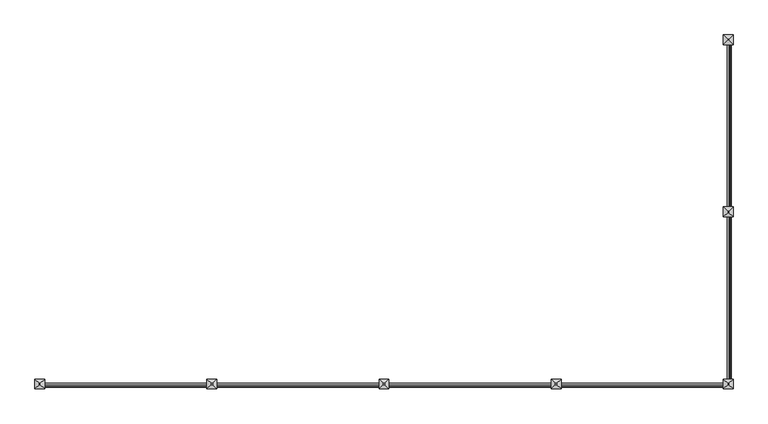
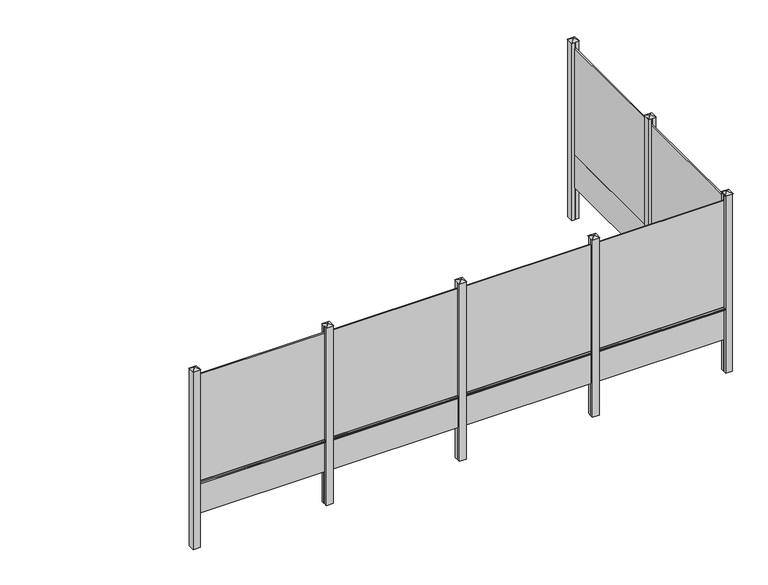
"""IFC4 building model written with IfcOpenShell, lengths in millimetres: railing geometry, Mehat - Railing - Plaque de Soubassement - Pour clôture bois - 192x50x3.5/2 cm."""

from ifc_helpers import new_model, si_unit, point, frame, frame_2d, origin, origin_with_axes, place, context, project, spatial, polyline, circle_curve, trimmed, segment, composite_curve, outline, extrude, faceted_brep, source, transform, mapped, element, save


def railing_174873eb(model_context):
    return source(origin(), model_context, "Body", "SolidModel", [
        extrude(outline(polyline([(-27103.7483484, -1437.4943936), (-27120.7483484, -1437.4943936), (-27120.7483484, 482.5056064), (-27103.7483484, 482.5056064), (-27103.7483484, -1437.4943936)])), frame((0.0, 0.0, 500.0), z_axis=(0.0, 0.0, 1.0), x_axis=(1.0, 0.0, 0.0)), (0.0, 0.0, 1.0), 1650.0),
        extrude(outline(polyline([(-27102.2483484, -1437.4943936), (-27122.2483484, -1437.4943936), (-27122.2483484, 482.5056064), (-27102.2483484, 482.5056064), (-27102.2483484, -1437.4943936)])), origin_with_axes(), (0.0, 0.0, 1.0), 500.0),
        extrude(outline(composite_curve([segment(polyline([(460.0, -27102.2483484), (467.1937129, -27080.6672095)]), True, "CONTINUOUS"), segment(trimmed(circle_curve(frame_2d((471.9371294, -27082.2483484)), 5.0), [point((467.1937129, -27080.6672095))], [point((471.9371294, -27077.2483484))], False, "CARTESIAN"), True, "CONTINUOUS"), segment(polyline([(471.9371294, -27077.2483484), (488.0628706, -27077.2483484)]), True, "CONTINUOUS"), segment(trimmed(circle_curve(frame_2d((488.0628706, -27082.2483484)), 5.0), [point((488.0628706, -27077.2483484))], [point((492.8062871, -27080.6672095))], False, "CARTESIAN"), True, "CONTINUOUS"), segment(polyline([(492.8062871, -27080.6672095), (500.0, -27102.2483484), (460.0, -27102.2483484)]), True, "CONTINUOUS")], self_intersect=False)), frame((0.0, -1402.4943936, 0.0), z_axis=(0.0, 1.0, 0.0), x_axis=(0.0, 0.0, 1.0)), (0.0, 0.0, 1.0), 1850.0),
        extrude(outline(polyline([(-27062.2483484, -1502.4943936), (-27102.2483484, -1502.4943936), (-27102.2483484, -1467.4943936), (-27122.2483484, -1467.4943936), (-27122.2483484, -1502.4943936), (-27162.2483484, -1502.4943936), (-27162.2483484, -1402.4943936), (-27122.2483484, -1402.4943936), (-27122.2483484, -1437.4943936), (-27102.2483484, -1437.4943936), (-27102.2483484, -1402.4943936), (-27062.2483484, -1402.4943936), (-27062.2483484, -1502.4943936)])), frame((0.0, 0.0, -500.0), z_axis=(0.0, 0.0, 1.0), x_axis=(1.0, 0.0, 0.0)), (0.0, 0.0, 1.0), 2750.0),
        faceted_brep([(-27118.6528945, -1446.1443936, 2275.4), (-27118.6528945, -1458.8443936, 2275.4), (-27105.9528945, -1458.8443936, 2275.4), (-27105.9528945, -1446.1443936, 2275.4), (-27168.5983484, -1396.1443936, 2250.0), (-27055.8983484, -1396.1443936, 2250.0), (-27055.8983484, -1508.8443936, 2250.0), (-27168.5983484, -1508.8443936, 2250.0)], [[[0, 1, 2, 3]], [[4, 5, 6, 7]], [[4, 0, 3, 5]], [[5, 3, 2, 6]], [[6, 2, 1, 7]], [[7, 1, 0, 4]]]),
        extrude(outline(polyline([(-27103.7483484, -3387.4943936), (-27120.7483484, -3387.4943936), (-27120.7483484, -1467.4943936), (-27103.7483484, -1467.4943936), (-27103.7483484, -3387.4943936)])), frame((0.0, 0.0, 500.0), z_axis=(0.0, 0.0, 1.0), x_axis=(1.0, 0.0, 0.0)), (0.0, 0.0, 1.0), 1650.0),
        extrude(outline(polyline([(-27102.2483484, -3387.4943936), (-27122.2483484, -3387.4943936), (-27122.2483484, -1467.4943936), (-27102.2483484, -1467.4943936), (-27102.2483484, -3387.4943936)])), origin_with_axes(), (0.0, 0.0, 1.0), 500.0),
        extrude(outline(composite_curve([segment(polyline([(460.0, -27102.2483484), (467.1937129, -27080.6672095)]), True, "CONTINUOUS"), segment(trimmed(circle_curve(frame_2d((471.9371294, -27082.2483484)), 5.0), [point((467.1937129, -27080.6672095))], [point((471.9371294, -27077.2483484))], False, "CARTESIAN"), True, "CONTINUOUS"), segment(polyline([(471.9371294, -27077.2483484), (488.0628706, -27077.2483484)]), True, "CONTINUOUS"), segment(trimmed(circle_curve(frame_2d((488.0628706, -27082.2483484)), 5.0), [point((488.0628706, -27077.2483484))], [point((492.8062871, -27080.6672095))], False, "CARTESIAN"), True, "CONTINUOUS"), segment(polyline([(492.8062871, -27080.6672095), (500.0, -27102.2483484), (460.0, -27102.2483484)]), True, "CONTINUOUS")], self_intersect=False)), frame((0.0, -3352.4943936, 0.0), z_axis=(0.0, 1.0, 0.0), x_axis=(0.0, 0.0, 1.0)), (0.0, 0.0, 1.0), 1850.0),
        extrude(outline(polyline([(-29047.2483484, -3410.9943936), (-29047.2483484, -3393.9943936), (-27127.2483484, -3393.9943936), (-27127.2483484, -3410.9943936), (-29047.2483484, -3410.9943936)])), frame((0.0, 0.0, 500.0), z_axis=(0.0, 0.0, 1.0), x_axis=(1.0, 0.0, 0.0)), (0.0, 0.0, 1.0), 1650.0),
        extrude(outline(polyline([(-29047.2483484, -3412.4943936), (-29047.2483484, -3392.4943936), (-27127.2483484, -3392.4943936), (-27127.2483484, -3412.4943936), (-29047.2483484, -3412.4943936)])), origin_with_axes(), (0.0, 0.0, 1.0), 500.0),
        extrude(outline(composite_curve([segment(polyline([(-3412.4943936, 460.0), (-3434.0755325, 467.1937129)]), True, "CONTINUOUS"), segment(trimmed(circle_curve(frame_2d((-3432.4943936, 471.9371294)), 5.0), [point((-3434.0755325, 467.1937129))], [point((-3437.4943936, 471.9371294))], False, "CARTESIAN"), True, "CONTINUOUS"), segment(polyline([(-3437.4943936, 471.9371294), (-3437.4943936, 488.0628706)]), True, "CONTINUOUS"), segment(trimmed(circle_curve(frame_2d((-3432.4943936, 488.0628706)), 5.0), [point((-3437.4943936, 488.0628706))], [point((-3434.0755325, 492.8062871))], False, "CARTESIAN"), True, "CONTINUOUS"), segment(polyline([(-3434.0755325, 492.8062871), (-3412.4943936, 500.0), (-3412.4943936, 460.0)]), True, "CONTINUOUS")], self_intersect=False)), frame((-29012.2483484, 0.0, 0.0), z_axis=(1.0, 0.0, 0.0), x_axis=(0.0, 1.0, 0.0)), (0.0, 0.0, 1.0), 1850.0),
        extrude(outline(polyline([(-29112.2483484, -3452.4943936), (-29112.2483484, -3412.4943936), (-29077.2483484, -3412.4943936), (-29077.2483484, -3392.4943936), (-29112.2483484, -3392.4943936), (-29112.2483484, -3352.4943936), (-29012.2483484, -3352.4943936), (-29012.2483484, -3392.4943936), (-29047.2483484, -3392.4943936), (-29047.2483484, -3412.4943936), (-29012.2483484, -3412.4943936), (-29012.2483484, -3452.4943936), (-29112.2483484, -3452.4943936)])), frame((0.0, 0.0, -500.0), z_axis=(0.0, 0.0, 1.0), x_axis=(1.0, 0.0, 0.0)), (0.0, 0.0, 1.0), 2750.0),
        faceted_brep([(-29055.8983484, -3396.0898475, 2275.4), (-29068.5983484, -3396.0898475, 2275.4), (-29068.5983484, -3408.7898475, 2275.4), (-29055.8983484, -3408.7898475, 2275.4), (-29005.8983484, -3346.1443936, 2250.0), (-29005.8983484, -3458.8443936, 2250.0), (-29118.5983484, -3458.8443936, 2250.0), (-29118.5983484, -3346.1443936, 2250.0)], [[[0, 1, 2, 3]], [[4, 5, 6, 7]], [[4, 0, 3, 5]], [[5, 3, 2, 6]], [[6, 2, 1, 7]], [[7, 1, 0, 4]]]),
        extrude(outline(polyline([(-30997.2483484, -3410.9943936), (-30997.2483484, -3393.9943936), (-29077.2483484, -3393.9943936), (-29077.2483484, -3410.9943936), (-30997.2483484, -3410.9943936)])), frame((0.0, 0.0, 500.0), z_axis=(0.0, 0.0, 1.0), x_axis=(1.0, 0.0, 0.0)), (0.0, 0.0, 1.0), 1650.0),
        extrude(outline(polyline([(-30997.2483484, -3412.4943936), (-30997.2483484, -3392.4943936), (-29077.2483484, -3392.4943936), (-29077.2483484, -3412.4943936), (-30997.2483484, -3412.4943936)])), origin_with_axes(), (0.0, 0.0, 1.0), 500.0),
        extrude(outline(composite_curve([segment(polyline([(-3412.4943936, 460.0), (-3434.0755325, 467.1937129)]), True, "CONTINUOUS"), segment(trimmed(circle_curve(frame_2d((-3432.4943936, 471.9371294)), 5.0), [point((-3434.0755325, 467.1937129))], [point((-3437.4943936, 471.9371294))], False, "CARTESIAN"), True, "CONTINUOUS"), segment(polyline([(-3437.4943936, 471.9371294), (-3437.4943936, 488.0628706)]), True, "CONTINUOUS"), segment(trimmed(circle_curve(frame_2d((-3432.4943936, 488.0628706)), 5.0), [point((-3437.4943936, 488.0628706))], [point((-3434.0755325, 492.8062871))], False, "CARTESIAN"), True, "CONTINUOUS"), segment(polyline([(-3434.0755325, 492.8062871), (-3412.4943936, 500.0), (-3412.4943936, 460.0)]), True, "CONTINUOUS")], self_intersect=False)), frame((-30962.2483484, 0.0, 0.0), z_axis=(1.0, 0.0, 0.0), x_axis=(0.0, 1.0, 0.0)), (0.0, 0.0, 1.0), 1850.0),
        extrude(outline(polyline([(-31062.2483484, -3452.4943936), (-31062.2483484, -3412.4943936), (-31027.2483484, -3412.4943936), (-31027.2483484, -3392.4943936), (-31062.2483484, -3392.4943936), (-31062.2483484, -3352.4943936), (-30962.2483484, -3352.4943936), (-30962.2483484, -3392.4943936), (-30997.2483484, -3392.4943936), (-30997.2483484, -3412.4943936), (-30962.2483484, -3412.4943936), (-30962.2483484, -3452.4943936), (-31062.2483484, -3452.4943936)])), frame((0.0, 0.0, -500.0), z_axis=(0.0, 0.0, 1.0), x_axis=(1.0, 0.0, 0.0)), (0.0, 0.0, 1.0), 2750.0),
        faceted_brep([(-31005.8983484, -3396.0898475, 2275.4), (-31018.5983484, -3396.0898475, 2275.4), (-31018.5983484, -3408.7898475, 2275.4), (-31005.8983484, -3408.7898475, 2275.4), (-30955.8983484, -3346.1443936, 2250.0), (-30955.8983484, -3458.8443936, 2250.0), (-31068.5983484, -3458.8443936, 2250.0), (-31068.5983484, -3346.1443936, 2250.0)], [[[0, 1, 2, 3]], [[4, 5, 6, 7]], [[4, 0, 3, 5]], [[5, 3, 2, 6]], [[6, 2, 1, 7]], [[7, 1, 0, 4]]]),
        extrude(outline(polyline([(-32947.2483484, -3410.9943936), (-32947.2483484, -3393.9943936), (-31027.2483484, -3393.9943936), (-31027.2483484, -3410.9943936), (-32947.2483484, -3410.9943936)])), frame((0.0, 0.0, 500.0), z_axis=(0.0, 0.0, 1.0), x_axis=(1.0, 0.0, 0.0)), (0.0, 0.0, 1.0), 1650.0),
        extrude(outline(polyline([(-32947.2483484, -3412.4943936), (-32947.2483484, -3392.4943936), (-31027.2483484, -3392.4943936), (-31027.2483484, -3412.4943936), (-32947.2483484, -3412.4943936)])), origin_with_axes(), (0.0, 0.0, 1.0), 500.0),
        extrude(outline(composite_curve([segment(polyline([(-3412.4943936, 460.0), (-3434.0755325, 467.1937129)]), True, "CONTINUOUS"), segment(trimmed(circle_curve(frame_2d((-3432.4943936, 471.9371294)), 5.0), [point((-3434.0755325, 467.1937129))], [point((-3437.4943936, 471.9371294))], False, "CARTESIAN"), True, "CONTINUOUS"), segment(polyline([(-3437.4943936, 471.9371294), (-3437.4943936, 488.0628706)]), True, "CONTINUOUS"), segment(trimmed(circle_curve(frame_2d((-3432.4943936, 488.0628706)), 5.0), [point((-3437.4943936, 488.0628706))], [point((-3434.0755325, 492.8062871))], False, "CARTESIAN"), True, "CONTINUOUS"), segment(polyline([(-3434.0755325, 492.8062871), (-3412.4943936, 500.0), (-3412.4943936, 460.0)]), True, "CONTINUOUS")], self_intersect=False)), frame((-32912.2483484, 0.0, 0.0), z_axis=(1.0, 0.0, 0.0), x_axis=(0.0, 1.0, 0.0)), (0.0, 0.0, 1.0), 1850.0),
        extrude(outline(polyline([(-33012.2483484, -3452.4943936), (-33012.2483484, -3412.4943936), (-32977.2483484, -3412.4943936), (-32977.2483484, -3392.4943936), (-33012.2483484, -3392.4943936), (-33012.2483484, -3352.4943936), (-32912.2483484, -3352.4943936), (-32912.2483484, -3392.4943936), (-32947.2483484, -3392.4943936), (-32947.2483484, -3412.4943936), (-32912.2483484, -3412.4943936), (-32912.2483484, -3452.4943936), (-33012.2483484, -3452.4943936)])), frame((0.0, 0.0, -500.0), z_axis=(0.0, 0.0, 1.0), x_axis=(1.0, 0.0, 0.0)), (0.0, 0.0, 1.0), 2750.0),
        faceted_brep([(-32955.8983484, -3396.0898475, 2275.4), (-32968.5983484, -3396.0898475, 2275.4), (-32968.5983484, -3408.7898475, 2275.4), (-32955.8983484, -3408.7898475, 2275.4), (-32905.8983484, -3346.1443936, 2250.0), (-32905.8983484, -3458.8443936, 2250.0), (-33018.5983484, -3458.8443936, 2250.0), (-33018.5983484, -3346.1443936, 2250.0)], [[[0, 1, 2, 3]], [[4, 5, 6, 7]], [[4, 0, 3, 5]], [[5, 3, 2, 6]], [[6, 2, 1, 7]], [[7, 1, 0, 4]]]),
        extrude(outline(polyline([(-34897.2483484, -3410.9943936), (-34897.2483484, -3393.9943936), (-32977.2483484, -3393.9943936), (-32977.2483484, -3410.9943936), (-34897.2483484, -3410.9943936)])), frame((0.0, 0.0, 500.0), z_axis=(0.0, 0.0, 1.0), x_axis=(1.0, 0.0, 0.0)), (0.0, 0.0, 1.0), 1650.0),
        extrude(outline(polyline([(-34897.2483484, -3412.4943936), (-34897.2483484, -3392.4943936), (-32977.2483484, -3392.4943936), (-32977.2483484, -3412.4943936), (-34897.2483484, -3412.4943936)])), origin_with_axes(), (0.0, 0.0, 1.0), 500.0),
        extrude(outline(composite_curve([segment(polyline([(-3412.4943936, 460.0), (-3434.0755325, 467.1937129)]), True, "CONTINUOUS"), segment(trimmed(circle_curve(frame_2d((-3432.4943936, 471.9371294)), 5.0), [point((-3434.0755325, 467.1937129))], [point((-3437.4943936, 471.9371294))], False, "CARTESIAN"), True, "CONTINUOUS"), segment(polyline([(-3437.4943936, 471.9371294), (-3437.4943936, 488.0628706)]), True, "CONTINUOUS"), segment(trimmed(circle_curve(frame_2d((-3432.4943936, 488.0628706)), 5.0), [point((-3437.4943936, 488.0628706))], [point((-3434.0755325, 492.8062871))], False, "CARTESIAN"), True, "CONTINUOUS"), segment(polyline([(-3434.0755325, 492.8062871), (-3412.4943936, 500.0), (-3412.4943936, 460.0)]), True, "CONTINUOUS")], self_intersect=False)), frame((-34862.2483484, 0.0, 0.0), z_axis=(1.0, 0.0, 0.0), x_axis=(0.0, 1.0, 0.0)), (0.0, 0.0, 1.0), 1850.0),
        extrude(outline(polyline([(-27162.2483484, -3452.4943936), (-27162.2483484, -3412.4943936), (-27127.2483484, -3412.4943936), (-27127.2483484, -3392.4943936), (-27162.2483484, -3392.4943936), (-27162.2483484, -3352.4943936), (-27122.2483484, -3352.4943936), (-27122.2483484, -3387.4943936), (-27102.2483484, -3387.4943936), (-27102.2483484, -3352.4943936), (-27062.2483484, -3352.4943936), (-27062.2483484, -3452.4943936), (-27162.2483484, -3452.4943936)])), frame((0.0, 0.0, -500.0), z_axis=(0.0, 0.0, 1.0), x_axis=(1.0, 0.0, 0.0)), (0.0, 0.0, 1.0), 2750.0),
        faceted_brep([(-27105.8983484, -3396.0898475, 2275.4), (-27118.5983484, -3396.0898475, 2275.4), (-27118.5983484, -3408.7898475, 2275.4), (-27105.8983484, -3408.7898475, 2275.4), (-27055.8983484, -3346.1443936, 2250.0), (-27055.8983484, -3458.8443936, 2250.0), (-27168.5983484, -3458.8443936, 2250.0), (-27168.5983484, -3346.1443936, 2250.0)], [[[0, 1, 2, 3]], [[4, 5, 6, 7]], [[4, 0, 3, 5]], [[5, 3, 2, 6]], [[6, 2, 1, 7]], [[7, 1, 0, 4]]]),
        extrude(outline(polyline([(-27062.2483484, 447.5056064), (-27102.2483484, 447.5056064), (-27102.2483484, 482.5056064), (-27122.2483484, 482.5056064), (-27122.2483484, 447.5056064), (-27162.2483484, 447.5056064), (-27162.2483484, 547.5056064), (-27062.2483484, 547.5056064), (-27062.2483484, 447.5056064)])), frame((0.0, 0.0, -500.0), z_axis=(0.0, 0.0, 1.0), x_axis=(1.0, 0.0, 0.0)), (0.0, 0.0, 1.0), 2750.0),
        faceted_brep([(-27118.6528945, 503.8556064, 2275.4), (-27118.6528945, 491.1556064, 2275.4), (-27105.9528945, 491.1556064, 2275.4), (-27105.9528945, 503.8556064, 2275.4), (-27168.5983484, 553.8556064, 2250.0), (-27055.8983484, 553.8556064, 2250.0), (-27055.8983484, 441.1556064, 2250.0), (-27168.5983484, 441.1556064, 2250.0)], [[[0, 1, 2, 3]], [[4, 5, 6, 7]], [[4, 0, 3, 5]], [[5, 3, 2, 6]], [[6, 2, 1, 7]], [[7, 1, 0, 4]]]),
        extrude(outline(polyline([(-34962.2483484, -3452.4943936), (-34962.2483484, -3352.4943936), (-34862.2483484, -3352.4943936), (-34862.2483484, -3392.4943936), (-34897.2483484, -3392.4943936), (-34897.2483484, -3412.4943936), (-34862.2483484, -3412.4943936), (-34862.2483484, -3452.4943936), (-34962.2483484, -3452.4943936)])), frame((0.0, 0.0, -500.0), z_axis=(0.0, 0.0, 1.0), x_axis=(1.0, 0.0, 0.0)), (0.0, 0.0, 1.0), 2750.0),
        faceted_brep([(-34905.8983484, -3396.0898475, 2275.4), (-34918.5983484, -3396.0898475, 2275.4), (-34918.5983484, -3408.7898475, 2275.4), (-34905.8983484, -3408.7898475, 2275.4), (-34855.8983484, -3346.1443936, 2250.0), (-34855.8983484, -3458.8443936, 2250.0), (-34968.5983484, -3458.8443936, 2250.0), (-34968.5983484, -3346.1443936, 2250.0)], [[[0, 1, 2, 3]], [[4, 5, 6, 7]], [[4, 0, 3, 5]], [[5, 3, 2, 6]], [[6, 2, 1, 7]], [[7, 1, 0, 4]]]),
    ])


if __name__ == "__main__":
    model = new_model("IFC4")
    model_context = context("Model", 3, world=origin())
    ifc_project = project(units=[si_unit("LENGTHUNIT", "METRE", prefix="MILLI")], contexts=[model_context])
    site = spatial("IfcSite", under=ifc_project)
    building = spatial("IfcBuilding", under=site)
    placement = place(None, origin())
    railing_shape = railing_174873eb(model_context)
    element("IfcRailing", 1, ObjectType="Mehat - Railing - Plaque de Soubassement - Pour clôture bois - 192x50x3.5/2 cm", at=placement, inside=building, context=model_context, shape_type="MappedRepresentation", body=[
        mapped(railing_shape, transform((0.0, 0.0, 0.0), x_axis=(1.0, 0.0, 0.0), y_axis=(0.0, 1.0, 0.0), z_axis=(0.0, 0.0, 1.0))),
    ])
    save(model, "model.ifc")
